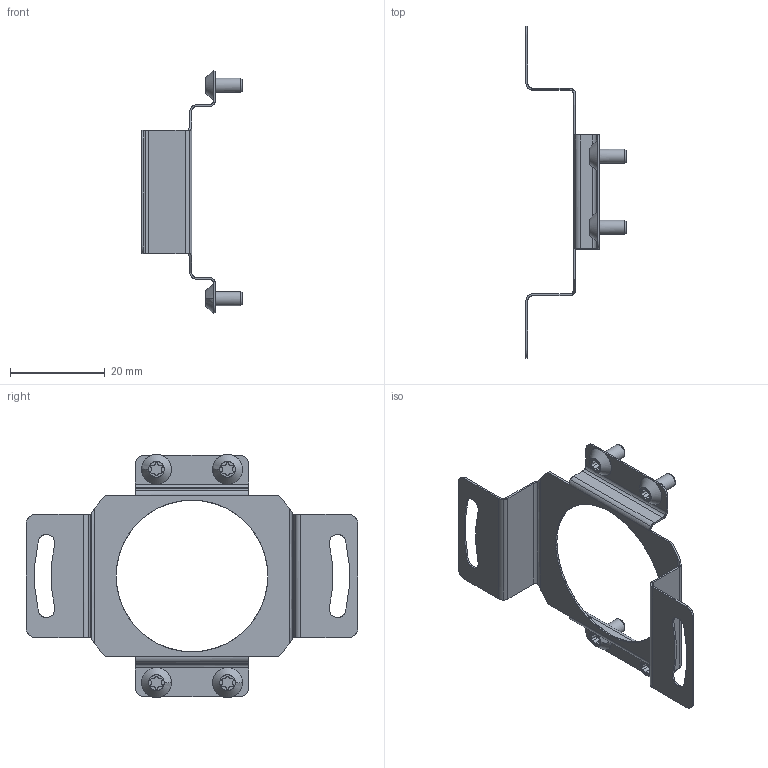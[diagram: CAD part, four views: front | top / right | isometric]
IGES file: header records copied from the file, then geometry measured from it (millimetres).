
Start section: C
Global section: file name: Befestigungssatz_11721627.igs; native system: By Siemens PLM Incorporated; preprocessor: XPlus GENERIC/IGES 23.0.61; author: Author; organization: Title; date: 20230412.154043; units: millimetre
Bounding box: 21.1 x 70 x 51.29 mm (x, y, z)
Surface area: 5276.4 mm2 (no closed solid volume)
Topology: 0 solids, 0 shells, 187 faces, 1050 edges, 1050 vertices
Faces by surface type: bspline 187
